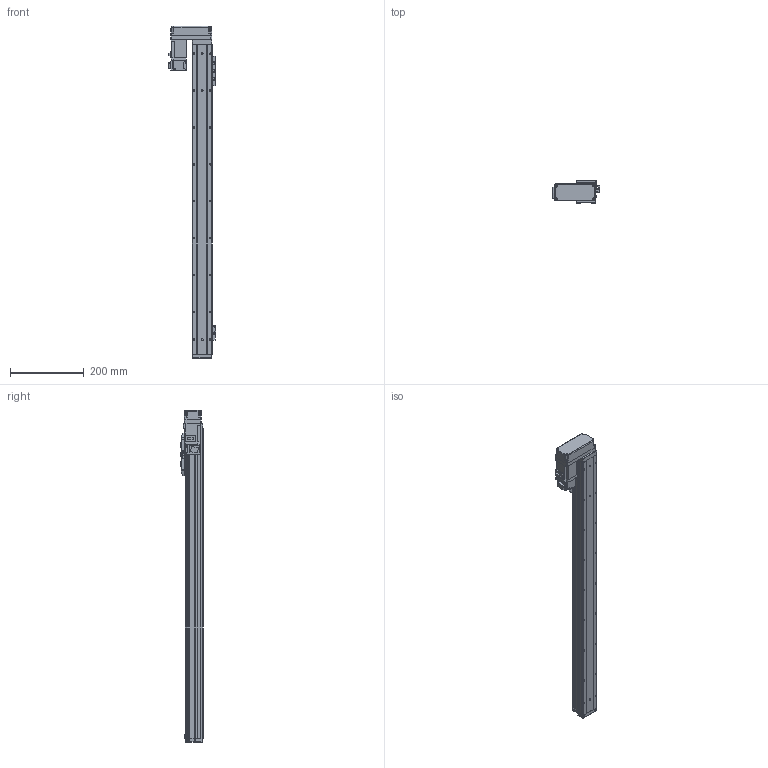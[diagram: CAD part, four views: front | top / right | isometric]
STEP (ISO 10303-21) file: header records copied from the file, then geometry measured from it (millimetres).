
FILE_DESCRIPTION (( 'STEP AP214' ), '1' );
FILE_NAME ('N_GRH5-700-BR-M10.step', '2025-03-14T10:58:23', ( '' ), ( '' ), 'SwSTEP 2.0', 'SolidWorks 2016', '' );
FILE_SCHEMA (( 'AUTOMOTIVE_DESIGN' ));
Length unit declared in the file: millimetre
Products named in the file (5): N_GRH5-BL-008^N_GRH5-700-BR-M10; HF-KP13_100W_Motor^N_GRH5-700-BR-M10; N_GRH5-GY-004^N_GRH5-700-BR-M10; N_GRH5-700-BR-M10; N_GRH5-GY-011^N_GRH5-700-BR-M10
Assembly tree (4 placements, depth 2):
  N_GRH5-700-BR-M10
    N_GRH5-GY-011^N_GRH5-700-BR-M10
    N_GRH5-GY-004^N_GRH5-700-BR-M10
    HF-KP13_100W_Motor^N_GRH5-700-BR-M10
    N_GRH5-BL-008^N_GRH5-700-BR-M10
Bounding box: 128.85 x 60 x 900 mm (x, y, z)
Volume: 1647894.8 mm3; surface area: 422049.7 mm2
Topology: 4 solids, 5 shells, 974 faces, 2480 edges, 1573 vertices
Faces by surface type: plane 555, cylinder 344, cone 50, bspline 15, sphere 10
Entity records: 36995 total; most frequent: CARTESIAN_POINT 5793, DIRECTION 5045, ORIENTED_EDGE 4896, EDGE_CURVE 2448, AXIS2_PLACEMENT_3D 1689, LINE 1667, VECTOR 1667, VERTEX_POINT 1571
